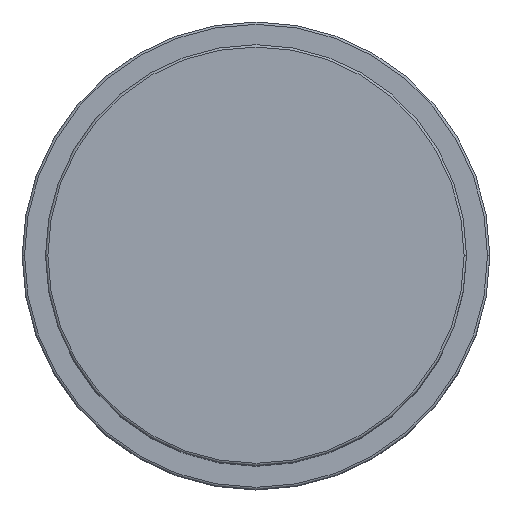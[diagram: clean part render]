
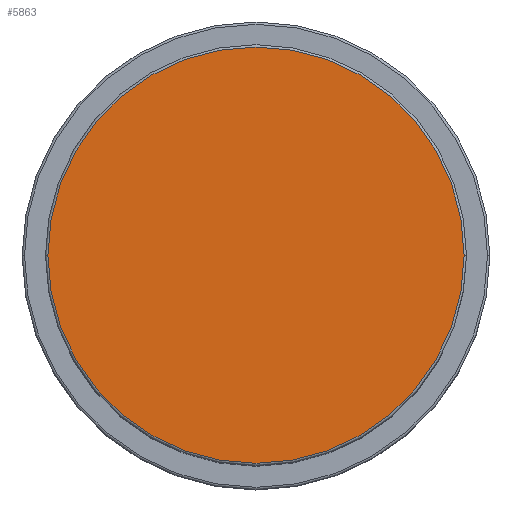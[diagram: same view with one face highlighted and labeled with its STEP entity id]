
A CAD part, top view. The second image highlights one B-rep face of the part: STEP entity #5863.
In plain terms, the highlighted planar face has unit normal (0, 0, 1).
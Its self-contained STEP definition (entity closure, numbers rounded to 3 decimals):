
#123 = ORIENTED_EDGE ( 'NONE', *, *, #6324, .T. ) ;
#1147 = VERTEX_POINT ( 'NONE', #4606 ) ;
#1353 = ORIENTED_EDGE ( 'NONE', *, *, #1813, .T. ) ;
#1535 = EDGE_LOOP ( 'NONE', ( #1353, #123 ) ) ;
#1687 = VERTEX_POINT ( 'NONE', #4322 ) ;
#1813 = EDGE_CURVE ( 'NONE', #1687, #1147, #4479, .T. ) ;
#2024 = DIRECTION ( 'NONE',  ( 1., 0., 0. ) ) ;
#2086 = CARTESIAN_POINT ( 'NONE',  ( 0., 0., 102. ) ) ;
#2310 = FACE_OUTER_BOUND ( 'NONE', #1535, .T. ) ;
#2424 = AXIS2_PLACEMENT_3D ( 'NONE', #4854, #7009, #2024 ) ;
#2643 = DIRECTION ( 'NONE',  ( 1., 0., 0. ) ) ;
#3852 = CARTESIAN_POINT ( 'NONE',  ( 0., 0., 102. ) ) ;
#4144 = AXIS2_PLACEMENT_3D ( 'NONE', #2086, #5960, #2643 ) ;
#4322 = CARTESIAN_POINT ( 'NONE',  ( 44.5, 0., 102. ) ) ;
#4467 = CIRCLE ( 'NONE', #2424, 44.5 ) ;
#4479 = CIRCLE ( 'NONE', #6896, 44.5 ) ;
#4606 = CARTESIAN_POINT ( 'NONE',  ( -44.5, 0., 102. ) ) ;
#4854 = CARTESIAN_POINT ( 'NONE',  ( 0., 0., 102. ) ) ;
#5333 = DIRECTION ( 'NONE',  ( 1., 0., 0. ) ) ;
#5811 = DIRECTION ( 'NONE',  ( 0., 0., 1. ) ) ;
#5863 = ADVANCED_FACE ( 'NONE', ( #2310 ), #6635, .T. ) ;
#5960 = DIRECTION ( 'NONE',  ( 0., 0., 1. ) ) ;
#6324 = EDGE_CURVE ( 'NONE', #1147, #1687, #4467, .T. ) ;
#6635 = PLANE ( 'NONE',  #4144 ) ;
#6896 = AXIS2_PLACEMENT_3D ( 'NONE', #3852, #5811, #5333 ) ;
#7009 = DIRECTION ( 'NONE',  ( 0., 0., 1. ) ) ;
